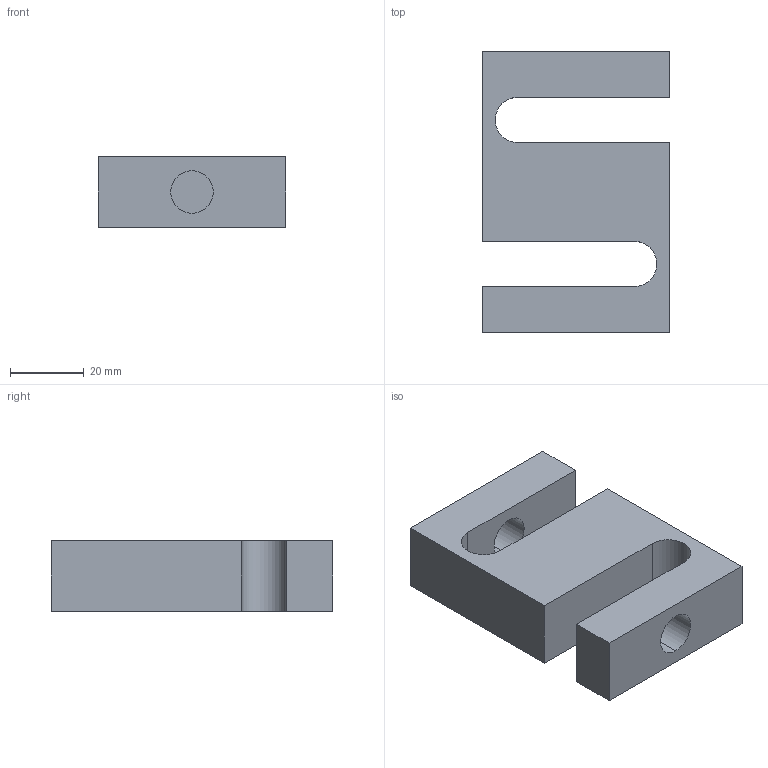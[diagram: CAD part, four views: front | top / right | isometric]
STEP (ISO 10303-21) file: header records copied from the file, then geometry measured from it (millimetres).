
FILE_DESCRIPTION (( 'STEP AP203' ), '1' );
FILE_NAME ('ras1-250#-to-1000 lb.STEP', '2018-03-30T05:03:45', ( '' ), ( '' ), 'SwSTEP 2.0', 'SolidWorks 2016', '' );
FILE_SCHEMA (( 'CONFIG_CONTROL_DESIGN' ));
Length unit declared in the file: inch
Products named in the file (1): ras1-250#-to-1000 lb
Bounding box: 50.8 x 76.2 x 19.05 mm (x, y, z)
Volume: 49691.1 mm3; surface area: 14218.3 mm2
Topology: 1 solids, 1 shells, 19 faces, 51 edges, 34 vertices
Faces by surface type: plane 12, cylinder 7
Entity records: 686 total; most frequent: CARTESIAN_POINT 105, DIRECTION 105, ORIENTED_EDGE 102, EDGE_CURVE 51, LINE 37, VECTOR 37, VERTEX_POINT 34, AXIS2_PLACEMENT_3D 34
